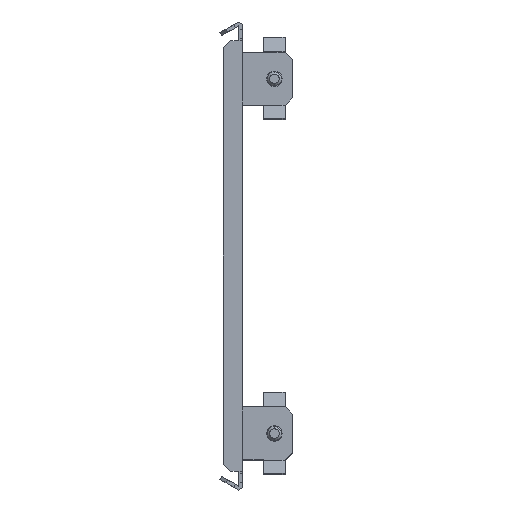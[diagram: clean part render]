
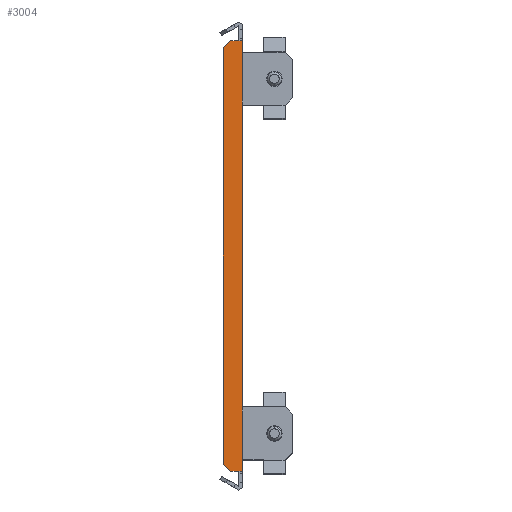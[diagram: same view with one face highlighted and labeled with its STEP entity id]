
A CAD part, front view. The second image highlights one B-rep face of the part: STEP entity #3004.
In plain terms, the highlighted planar face has unit normal (0, -1, 0).
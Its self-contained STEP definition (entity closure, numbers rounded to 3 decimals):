
#12 = VECTOR ( 'NONE', #10061, 1000. ) ;
#571 = VERTEX_POINT ( 'NONE', #15195 ) ;
#891 = DIRECTION ( 'NONE',  ( 0.707, 0., -0.707 ) ) ;
#913 = CARTESIAN_POINT ( 'NONE',  ( 0., -153., -63.75 ) ) ;
#1065 = LINE ( 'NONE', #17653, #12636 ) ;
#1231 = DIRECTION ( 'NONE',  ( 1., 0., 0. ) ) ;
#1347 = DIRECTION ( 'NONE',  ( -0.707, 0., -0.707 ) ) ;
#1420 = VECTOR ( 'NONE', #6735, 1000. ) ;
#1618 = LINE ( 'NONE', #7115, #9446 ) ;
#1627 = VERTEX_POINT ( 'NONE', #7084 ) ;
#2024 = EDGE_CURVE ( 'NONE', #571, #17349, #12468, .T. ) ;
#2053 = CARTESIAN_POINT ( 'NONE',  ( 0., -153., 90.897 ) ) ;
#2119 = ORIENTED_EDGE ( 'NONE', *, *, #3363, .T. ) ;
#2137 = VERTEX_POINT ( 'NONE', #10120 ) ;
#3004 = ADVANCED_FACE ( 'NONE', ( #8087 ), #10869, .F. ) ;
#3114 = LINE ( 'NONE', #14477, #5712 ) ;
#3191 = VECTOR ( 'NONE', #15660, 1000. ) ;
#3233 = CARTESIAN_POINT ( 'NONE',  ( -8., -153., -87.897 ) ) ;
#3363 = EDGE_CURVE ( 'NONE', #11480, #1627, #12356, .T. ) ;
#3419 = ORIENTED_EDGE ( 'NONE', *, *, #5047, .T. ) ;
#3558 = ORIENTED_EDGE ( 'NONE', *, *, #8277, .T. ) ;
#3672 = DIRECTION ( 'NONE',  ( 0., 1., 0. ) ) ;
#3779 = DIRECTION ( 'NONE',  ( 0., 0., 1. ) ) ;
#4035 = CARTESIAN_POINT ( 'NONE',  ( -2.5, -153., -90.897 ) ) ;
#4265 = DIRECTION ( 'NONE',  ( 0., 0., -1. ) ) ;
#4564 = LINE ( 'NONE', #17277, #12 ) ;
#4587 = EDGE_CURVE ( 'NONE', #1627, #5059, #6818, .T. ) ;
#5047 = EDGE_CURVE ( 'NONE', #5059, #17825, #9138, .T. ) ;
#5059 = VERTEX_POINT ( 'NONE', #13378 ) ;
#5121 = CARTESIAN_POINT ( 'NONE',  ( 0., -153., 0. ) ) ;
#5282 = EDGE_CURVE ( 'NONE', #11949, #571, #16338, .T. ) ;
#5657 = EDGE_CURVE ( 'NONE', #13266, #6732, #17469, .T. ) ;
#5712 = VECTOR ( 'NONE', #15847, 1000. ) ;
#6110 = VECTOR ( 'NONE', #4265, 1000. ) ;
#6544 = LINE ( 'NONE', #13026, #7195 ) ;
#6732 = VERTEX_POINT ( 'NONE', #14790 ) ;
#6735 = DIRECTION ( 'NONE',  ( 1., 0., 0. ) ) ;
#6818 = LINE ( 'NONE', #4035, #1420 ) ;
#7084 = CARTESIAN_POINT ( 'NONE',  ( -2.5, -153., -90.897 ) ) ;
#7115 = CARTESIAN_POINT ( 'NONE',  ( 0., -153., 0. ) ) ;
#7154 = VECTOR ( 'NONE', #1347, 1000. ) ;
#7195 = VECTOR ( 'NONE', #17178, 1000. ) ;
#7304 = EDGE_CURVE ( 'NONE', #17825, #12160, #4564, .T. ) ;
#7353 = EDGE_CURVE ( 'NONE', #2137, #11949, #14388, .T. ) ;
#7519 = ORIENTED_EDGE ( 'NONE', *, *, #4587, .T. ) ;
#8087 = FACE_OUTER_BOUND ( 'NONE', #9037, .T. ) ;
#8277 = EDGE_CURVE ( 'NONE', #16632, #13266, #1618, .T. ) ;
#8289 = CARTESIAN_POINT ( 'NONE',  ( 0., -153., -90.897 ) ) ;
#8306 = VECTOR ( 'NONE', #3779, 1000. ) ;
#8536 = EDGE_CURVE ( 'NONE', #2137, #6732, #3114, .T. ) ;
#9037 = EDGE_LOOP ( 'NONE', ( #2119, #7519, #3419, #11215, #10307, #3558, #15454, #17388, #13973, #13413, #10817, #16476 ) ) ;
#9138 = LINE ( 'NONE', #17431, #17221 ) ;
#9446 = VECTOR ( 'NONE', #14239, 1000. ) ;
#9930 = EDGE_CURVE ( 'NONE', #12160, #16632, #6544, .T. ) ;
#10061 = DIRECTION ( 'NONE',  ( 0., 0., 1. ) ) ;
#10120 = CARTESIAN_POINT ( 'NONE',  ( -2.5, -153., 90.897 ) ) ;
#10307 = ORIENTED_EDGE ( 'NONE', *, *, #9930, .T. ) ;
#10713 = CARTESIAN_POINT ( 'NONE',  ( -5., -153., -90.897 ) ) ;
#10817 = ORIENTED_EDGE ( 'NONE', *, *, #2024, .T. ) ;
#10869 = PLANE ( 'NONE',  #13736 ) ;
#11215 = ORIENTED_EDGE ( 'NONE', *, *, #7304, .T. ) ;
#11480 = VERTEX_POINT ( 'NONE', #10713 ) ;
#11546 = EDGE_CURVE ( 'NONE', #17349, #11480, #1065, .T. ) ;
#11725 = CARTESIAN_POINT ( 'NONE',  ( 0., -153., 63.75 ) ) ;
#11933 = DIRECTION ( 'NONE',  ( 0., 0., 1. ) ) ;
#11949 = VERTEX_POINT ( 'NONE', #16963 ) ;
#12034 = VECTOR ( 'NONE', #13187, 1000. ) ;
#12160 = VERTEX_POINT ( 'NONE', #913 ) ;
#12356 = LINE ( 'NONE', #8289, #12034 ) ;
#12468 = LINE ( 'NONE', #14088, #6110 ) ;
#12636 = VECTOR ( 'NONE', #891, 1000. ) ;
#13026 = CARTESIAN_POINT ( 'NONE',  ( 0., -153., 0. ) ) ;
#13187 = DIRECTION ( 'NONE',  ( 1., 0., 0. ) ) ;
#13266 = VERTEX_POINT ( 'NONE', #14446 ) ;
#13378 = CARTESIAN_POINT ( 'NONE',  ( 0., -153., -90.897 ) ) ;
#13413 = ORIENTED_EDGE ( 'NONE', *, *, #5282, .T. ) ;
#13583 = CARTESIAN_POINT ( 'NONE',  ( 0., -153., 0. ) ) ;
#13736 = AXIS2_PLACEMENT_3D ( 'NONE', #13583, #3672, #1231 ) ;
#13973 = ORIENTED_EDGE ( 'NONE', *, *, #7353, .T. ) ;
#14088 = CARTESIAN_POINT ( 'NONE',  ( -8., -153., 0. ) ) ;
#14239 = DIRECTION ( 'NONE',  ( 0., 0., 1. ) ) ;
#14388 = LINE ( 'NONE', #2053, #3191 ) ;
#14446 = CARTESIAN_POINT ( 'NONE',  ( 0., -153., 86.095 ) ) ;
#14477 = CARTESIAN_POINT ( 'NONE',  ( 0., -153., 90.897 ) ) ;
#14790 = CARTESIAN_POINT ( 'NONE',  ( 0., -153., 90.897 ) ) ;
#15195 = CARTESIAN_POINT ( 'NONE',  ( -8., -153., 87.897 ) ) ;
#15454 = ORIENTED_EDGE ( 'NONE', *, *, #5657, .T. ) ;
#15660 = DIRECTION ( 'NONE',  ( -1., 0., 0. ) ) ;
#15847 = DIRECTION ( 'NONE',  ( 1., 0., 0. ) ) ;
#16338 = LINE ( 'NONE', #17753, #7154 ) ;
#16476 = ORIENTED_EDGE ( 'NONE', *, *, #11546, .T. ) ;
#16632 = VERTEX_POINT ( 'NONE', #11725 ) ;
#16963 = CARTESIAN_POINT ( 'NONE',  ( -5., -153., 90.897 ) ) ;
#17157 = CARTESIAN_POINT ( 'NONE',  ( 0., -153., -86.095 ) ) ;
#17178 = DIRECTION ( 'NONE',  ( 0., 0., 1. ) ) ;
#17221 = VECTOR ( 'NONE', #11933, 1000. ) ;
#17277 = CARTESIAN_POINT ( 'NONE',  ( 0., -153., 0. ) ) ;
#17349 = VERTEX_POINT ( 'NONE', #3233 ) ;
#17388 = ORIENTED_EDGE ( 'NONE', *, *, #8536, .F. ) ;
#17431 = CARTESIAN_POINT ( 'NONE',  ( 0., -153., 0. ) ) ;
#17469 = LINE ( 'NONE', #5121, #8306 ) ;
#17653 = CARTESIAN_POINT ( 'NONE',  ( -47.948, -153., -47.948 ) ) ;
#17753 = CARTESIAN_POINT ( 'NONE',  ( -47.948, -153., 47.948 ) ) ;
#17825 = VERTEX_POINT ( 'NONE', #17157 ) ;
